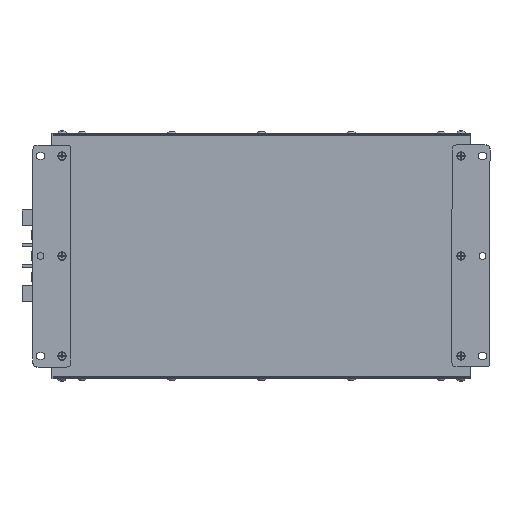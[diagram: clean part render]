
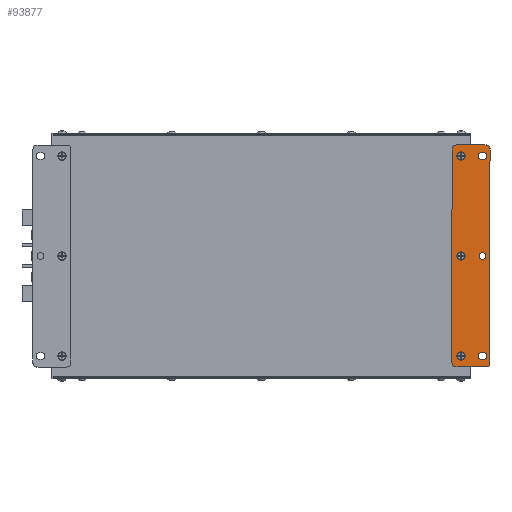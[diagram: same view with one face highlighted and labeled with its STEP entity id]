
A CAD part, front view. The second image highlights one B-rep face of the part: STEP entity #93877.
In plain terms, the highlighted planar face has unit normal (0, -1, 0).
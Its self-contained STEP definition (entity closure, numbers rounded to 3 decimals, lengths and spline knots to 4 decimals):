
#4162=FACE_BOUND('',#31618,.T.);
#4163=FACE_BOUND('',#31619,.T.);
#4164=FACE_BOUND('',#31620,.T.);
#4165=FACE_BOUND('',#31621,.T.);
#4166=FACE_BOUND('',#31622,.T.);
#4167=FACE_BOUND('',#31623,.T.);
#6369=PLANE('',#101611);
#12942=LINE('',#180484,#20167);
#12947=LINE('',#180497,#20172);
#12951=LINE('',#180509,#20176);
#12955=LINE('',#180521,#20180);
#12959=LINE('',#180538,#20184);
#12964=LINE('',#180551,#20189);
#12967=LINE('',#180562,#20192);
#12972=LINE('',#180575,#20197);
#20167=VECTOR('',#122813,0.3937);
#20172=VECTOR('',#122826,0.3937);
#20176=VECTOR('',#122838,0.3937);
#20180=VECTOR('',#122850,0.3937);
#20184=VECTOR('',#122868,0.3937);
#20189=VECTOR('',#122881,0.3937);
#20192=VECTOR('',#122892,0.3937);
#20197=VECTOR('',#122905,0.3937);
#26376=FACE_OUTER_BOUND('',#31617,.T.);
#31617=EDGE_LOOP('',(#82928,#82929,#82930,#82931,#82932,#82933,#82934,#82935));
#31618=EDGE_LOOP('',(#82936));
#31619=EDGE_LOOP('',(#82937,#82938,#82939,#82940));
#31620=EDGE_LOOP('',(#82941,#82942,#82943,#82944));
#31621=EDGE_LOOP('',(#82945));
#31622=EDGE_LOOP('',(#82946));
#31623=EDGE_LOOP('',(#82947));
#35555=CIRCLE('',#101560,0.1575);
#35557=CIRCLE('',#101564,0.1575);
#35559=CIRCLE('',#101568,0.1575);
#35561=CIRCLE('',#101572,0.1575);
#35562=CIRCLE('',#101574,0.1299);
#35565=CIRCLE('',#101579,0.1299);
#35567=CIRCLE('',#101583,0.1299);
#35569=CIRCLE('',#101587,0.1299);
#35571=CIRCLE('',#101591,0.1299);
#35574=CIRCLE('',#101596,0.1673);
#35580=CIRCLE('',#101604,0.1673);
#35586=CIRCLE('',#101612,0.1673);
#44281=VERTEX_POINT('',#180481);
#44282=VERTEX_POINT('',#180483);
#44284=VERTEX_POINT('',#180489);
#44286=VERTEX_POINT('',#180495);
#44288=VERTEX_POINT('',#180501);
#44290=VERTEX_POINT('',#180507);
#44292=VERTEX_POINT('',#180513);
#44294=VERTEX_POINT('',#180519);
#44295=VERTEX_POINT('',#180526);
#44299=VERTEX_POINT('',#180535);
#44300=VERTEX_POINT('',#180537);
#44302=VERTEX_POINT('',#180543);
#44304=VERTEX_POINT('',#180549);
#44307=VERTEX_POINT('',#180559);
#44308=VERTEX_POINT('',#180561);
#44310=VERTEX_POINT('',#180567);
#44312=VERTEX_POINT('',#180573);
#44315=VERTEX_POINT('',#180586);
#44321=VERTEX_POINT('',#180602);
#44327=VERTEX_POINT('',#180618);
#57342=EDGE_CURVE('',#44282,#44281,#12942,.T.);
#57346=EDGE_CURVE('',#44281,#44284,#35555,.T.);
#57349=EDGE_CURVE('',#44284,#44286,#12947,.T.);
#57352=EDGE_CURVE('',#44286,#44288,#35557,.T.);
#57355=EDGE_CURVE('',#44288,#44290,#12951,.T.);
#57358=EDGE_CURVE('',#44290,#44292,#35559,.T.);
#57361=EDGE_CURVE('',#44292,#44294,#12955,.T.);
#57363=EDGE_CURVE('',#44294,#44282,#35561,.T.);
#57364=EDGE_CURVE('',#44295,#44295,#35562,.T.);
#57369=EDGE_CURVE('',#44300,#44299,#12959,.T.);
#57373=EDGE_CURVE('',#44299,#44302,#35565,.T.);
#57376=EDGE_CURVE('',#44302,#44304,#12964,.T.);
#57378=EDGE_CURVE('',#44304,#44300,#35567,.T.);
#57381=EDGE_CURVE('',#44308,#44307,#12967,.T.);
#57385=EDGE_CURVE('',#44307,#44310,#35569,.T.);
#57388=EDGE_CURVE('',#44310,#44312,#12972,.T.);
#57390=EDGE_CURVE('',#44312,#44308,#35571,.T.);
#57394=EDGE_CURVE('',#44315,#44315,#35574,.T.);
#57402=EDGE_CURVE('',#44321,#44321,#35580,.T.);
#57410=EDGE_CURVE('',#44327,#44327,#35586,.T.);
#82928=ORIENTED_EDGE('',*,*,#57342,.T.);
#82929=ORIENTED_EDGE('',*,*,#57346,.T.);
#82930=ORIENTED_EDGE('',*,*,#57349,.T.);
#82931=ORIENTED_EDGE('',*,*,#57352,.T.);
#82932=ORIENTED_EDGE('',*,*,#57355,.T.);
#82933=ORIENTED_EDGE('',*,*,#57358,.T.);
#82934=ORIENTED_EDGE('',*,*,#57361,.T.);
#82935=ORIENTED_EDGE('',*,*,#57363,.T.);
#82936=ORIENTED_EDGE('',*,*,#57402,.F.);
#82937=ORIENTED_EDGE('',*,*,#57381,.T.);
#82938=ORIENTED_EDGE('',*,*,#57385,.T.);
#82939=ORIENTED_EDGE('',*,*,#57388,.T.);
#82940=ORIENTED_EDGE('',*,*,#57390,.T.);
#82941=ORIENTED_EDGE('',*,*,#57369,.T.);
#82942=ORIENTED_EDGE('',*,*,#57373,.T.);
#82943=ORIENTED_EDGE('',*,*,#57376,.T.);
#82944=ORIENTED_EDGE('',*,*,#57378,.T.);
#82945=ORIENTED_EDGE('',*,*,#57364,.T.);
#82946=ORIENTED_EDGE('',*,*,#57394,.F.);
#82947=ORIENTED_EDGE('',*,*,#57410,.F.);
#93877=ADVANCED_FACE('',(#26376,#4162,#4163,#4164,#4165,#4166,#4167),#6369,
 .T.);
#101560=AXIS2_PLACEMENT_3D('',#180491,#122820,#122821);
#101564=AXIS2_PLACEMENT_3D('',#180503,#122832,#122833);
#101568=AXIS2_PLACEMENT_3D('',#180515,#122844,#122845);
#101572=AXIS2_PLACEMENT_3D('',#180524,#122855,#122856);
#101574=AXIS2_PLACEMENT_3D('',#180527,#122859,#122860);
#101579=AXIS2_PLACEMENT_3D('',#180545,#122875,#122876);
#101583=AXIS2_PLACEMENT_3D('',#180554,#122886,#122887);
#101587=AXIS2_PLACEMENT_3D('',#180569,#122899,#122900);
#101591=AXIS2_PLACEMENT_3D('',#180578,#122910,#122911);
#101596=AXIS2_PLACEMENT_3D('',#180587,#122921,#122922);
#101604=AXIS2_PLACEMENT_3D('',#180603,#122939,#122940);
#101611=AXIS2_PLACEMENT_3D('',#180617,#122955,#122956);
#101612=AXIS2_PLACEMENT_3D('',#180619,#122957,#122958);
#122813=DIRECTION('',(1.,0.,0.));
#122820=DIRECTION('center_axis',(0.,-1.,0.));
#122821=DIRECTION('ref_axis',(0.,0.,-1.));
#122826=DIRECTION('',(0.,0.,1.));
#122832=DIRECTION('center_axis',(0.,-1.,0.));
#122833=DIRECTION('ref_axis',(1.,0.,0.));
#122838=DIRECTION('',(-1.,0.,0.));
#122844=DIRECTION('center_axis',(0.,-1.,0.));
#122845=DIRECTION('ref_axis',(0.,0.,1.));
#122850=DIRECTION('',(0.,0.,-1.));
#122855=DIRECTION('center_axis',(0.,-1.,0.));
#122856=DIRECTION('ref_axis',(-1.,0.,0.));
#122859=DIRECTION('center_axis',(0.,1.,0.));
#122860=DIRECTION('ref_axis',(0.,0.,1.));
#122868=DIRECTION('',(1.,0.,0.));
#122875=DIRECTION('center_axis',(0.,1.,0.));
#122876=DIRECTION('ref_axis',(0.,0.,1.));
#122881=DIRECTION('',(-1.,0.,0.));
#122886=DIRECTION('center_axis',(0.,1.,0.));
#122887=DIRECTION('ref_axis',(0.,0.,-1.));
#122892=DIRECTION('',(-1.,0.,0.));
#122899=DIRECTION('center_axis',(0.,1.,0.));
#122900=DIRECTION('ref_axis',(0.,0.,-1.));
#122905=DIRECTION('',(1.,0.,0.));
#122910=DIRECTION('center_axis',(0.,1.,0.));
#122911=DIRECTION('ref_axis',(0.,0.,1.));
#122921=DIRECTION('center_axis',(0.,-1.,0.));
#122922=DIRECTION('ref_axis',(0.,0.,1.));
#122939=DIRECTION('center_axis',(0.,-1.,0.));
#122940=DIRECTION('ref_axis',(0.,0.,1.));
#122955=DIRECTION('center_axis',(0.,-1.,0.));
#122956=DIRECTION('ref_axis',(1.,0.,0.));
#122957=DIRECTION('center_axis',(0.,-1.,0.));
#122958=DIRECTION('ref_axis',(0.,0.,1.));
#180481=CARTESIAN_POINT('',(0.7628,-0.1339,-10.0336));
#180483=CARTESIAN_POINT('',(-0.4183,-0.1339,-10.0336));
#180484=CARTESIAN_POINT('',(-0.4183,-0.1339,-10.0336));
#180489=CARTESIAN_POINT('',(0.9202,-0.1339,-9.8761));
#180491=CARTESIAN_POINT('Origin',(0.7628,-0.1339,
-9.8761));
#180495=CARTESIAN_POINT('',(0.9202,-0.1339,-1.4509));
#180497=CARTESIAN_POINT('',(0.9202,-0.1339,-9.8761));
#180501=CARTESIAN_POINT('',(0.7628,-0.1339,-1.2934));
#180503=CARTESIAN_POINT('Origin',(0.7628,-0.1339,-1.4509));
#180507=CARTESIAN_POINT('',(-0.4183,-0.1339,-1.2934));
#180509=CARTESIAN_POINT('',(0.7628,-0.1339,-1.2934));
#180513=CARTESIAN_POINT('',(-0.5758,-0.1339,-1.4509));
#180515=CARTESIAN_POINT('Origin',(-0.4183,-0.1339,
-1.4509));
#180519=CARTESIAN_POINT('',(-0.5758,-0.1339,-9.8761));
#180521=CARTESIAN_POINT('',(-0.5758,-0.1339,-1.4509));
#180524=CARTESIAN_POINT('Origin',(-0.4183,-0.1339,
-9.8761));
#180526=CARTESIAN_POINT('',(0.625,-0.1339,-5.7934));
#180527=CARTESIAN_POINT('Origin',(0.625,-0.1339,
-5.6635));
#180535=CARTESIAN_POINT('',(0.6643,-0.1339,-9.4706));
#180537=CARTESIAN_POINT('',(0.5856,-0.1339,-9.4706));
#180538=CARTESIAN_POINT('',(0.5856,-0.1339,-9.4706));
#180543=CARTESIAN_POINT('',(0.6643,-0.1339,-9.7304));
#180545=CARTESIAN_POINT('Origin',(0.6643,-0.1339,
-9.6005));
#180549=CARTESIAN_POINT('',(0.5856,-0.1339,-9.7304));
#180551=CARTESIAN_POINT('',(0.6643,-0.1339,-9.7304));
#180554=CARTESIAN_POINT('Origin',(0.5856,-0.1339,
-9.6005));
#180559=CARTESIAN_POINT('',(0.5856,-0.1339,-1.8564));
#180561=CARTESIAN_POINT('',(0.6643,-0.1339,-1.8564));
#180562=CARTESIAN_POINT('',(0.6643,-0.1339,-1.8564));
#180567=CARTESIAN_POINT('',(0.5856,-0.1339,-1.5966));
#180569=CARTESIAN_POINT('Origin',(0.5856,-0.1339,
-1.7265));
#180573=CARTESIAN_POINT('',(0.6643,-0.1339,-1.5966));
#180575=CARTESIAN_POINT('',(0.5856,-0.1339,-1.5966));
#180578=CARTESIAN_POINT('Origin',(0.6643,-0.1339,
-1.7265));
#180586=CARTESIAN_POINT('',(-0.2215,-0.1339,-9.7678));
#180587=CARTESIAN_POINT('Origin',(-0.2215,-0.1339,
-9.6005));
#180602=CARTESIAN_POINT('',(-0.2215,-0.1339,-5.8308));
#180603=CARTESIAN_POINT('Origin',(-0.2215,-0.1339,
-5.6635));
#180617=CARTESIAN_POINT('Origin',(0.1722,-0.1339,
-5.6635));
#180618=CARTESIAN_POINT('',(-0.2215,-0.1339,-1.8938));
#180619=CARTESIAN_POINT('Origin',(-0.2215,-0.1339,
-1.7265));
